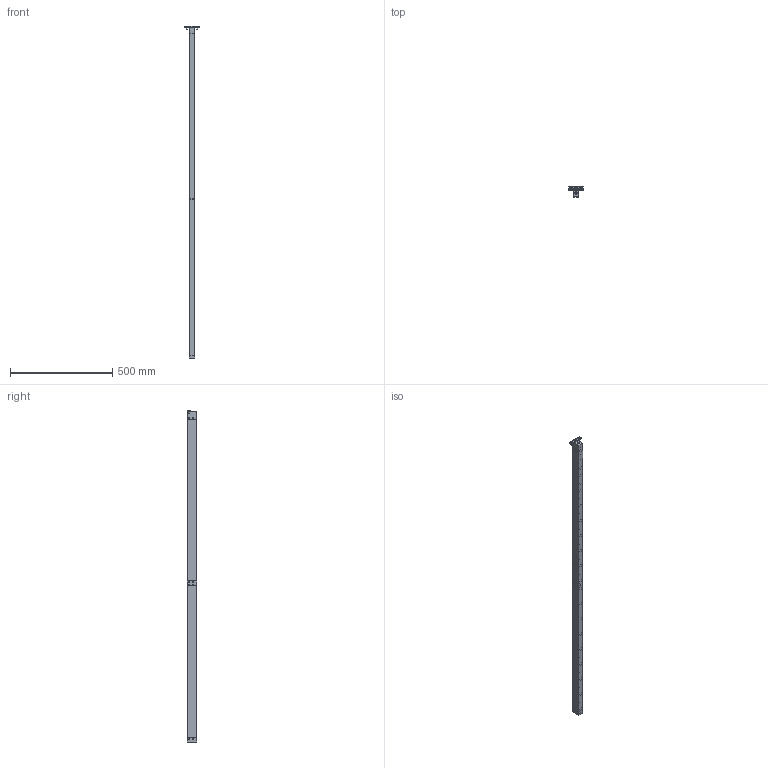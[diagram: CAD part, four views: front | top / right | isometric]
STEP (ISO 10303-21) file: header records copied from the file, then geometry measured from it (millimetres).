
FILE_DESCRIPTION(/* description */ ('DIE LIFTER'),/* implementation_level */ '2;1');
FILE_NAME(/* name */ 'S:\EASCN Vault\Designs\Standard Part\DIE LIFTERS\EHB\EHB- 3D step\EHB28 - 3D step complete serie\EHB28-35.stp',/* time_stamp */ '2019-11-27T11:04:45+08:00',/* author */ ('yue.yang'),/* organization */ (''),/* preprocessor_version */ 'ST-DEVELOPER v17',/* originating_system */ 'Autodesk Inventor 2019',/* authorisation */ '');
FILE_SCHEMA (('AUTOMOTIVE_DESIGN { 1 0 10303 214 3 1 1 }'));
Length unit declared in the file: millimetre
Products named in the file (2): EHB28-35; EHB28-35_Substitute_1
Assembly tree (1 placements, depth 2):
  EHB28-35
    EHB28-35_Substitute_1
Bounding box: 70 x 47.8 x 1624 mm (x, y, z)
Volume: 1821388.3 mm3; surface area: 464118.2 mm2
Topology: 38 solids, 38 shells, 1066 faces, 2879 edges, 2035 vertices
Faces by surface type: plane 432, cylinder 339, cone 151, torus 109, sphere 35
Full cylindrical faces by diameter (mm): 3 x3, 5 x14, 5.5 x2, 6 x40, 6.5 x3, 6.647 x4, 7.5 x1, 10 x5, 10.5 x1, 11.445 x1, 12 x3, 16 x35, 20 x35, 21.5 x35, 24.05 x35, 24.2 x35
Entity records: 40378 total; most frequent: CARTESIAN_POINT 11003, DIRECTION 6209, ORIENTED_EDGE 5730, EDGE_CURVE 2865, AXIS2_PLACEMENT_3D 2654, VERTEX_POINT 2035, CIRCLE 1585, EDGE_LOOP 1360
